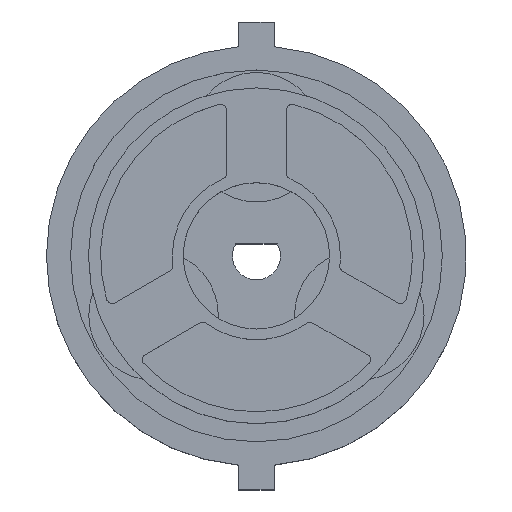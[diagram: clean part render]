
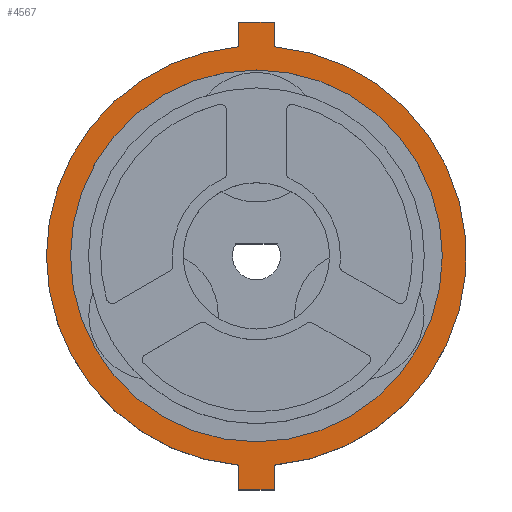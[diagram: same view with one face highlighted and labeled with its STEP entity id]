
A CAD part, top view. The second image highlights one B-rep face of the part: STEP entity #4567.
In plain terms, the highlighted planar face has unit normal (0, 0, 1).
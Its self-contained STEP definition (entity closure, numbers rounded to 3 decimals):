
#13 = ORIENTED_EDGE ( 'NONE', *, *, #3584, .T. ) ;
#15 = EDGE_CURVE ( 'NONE', #2970, #1885, #988, .T. ) ;
#82 = DIRECTION ( 'NONE',  ( 0., 0., 1. ) ) ;
#107 = DIRECTION ( 'NONE',  ( 0., -1., 0. ) ) ;
#437 = FACE_OUTER_BOUND ( 'NONE', #827, .T. ) ;
#465 = CARTESIAN_POINT ( 'NONE',  ( 1.5, -19.5, 4.5 ) ) ;
#616 = CIRCLE ( 'NONE', #6464, 17.5 ) ;
#751 = VERTEX_POINT ( 'NONE', #2878 ) ;
#776 = DIRECTION ( 'NONE',  ( 0., 0., 1. ) ) ;
#827 = EDGE_LOOP ( 'NONE', ( #4017, #13, #6195, #984, #888, #933, #6755, #1628, #4000 ) ) ;
#835 = CARTESIAN_POINT ( 'NONE',  ( -1.5, -19.5, 4.5 ) ) ;
#838 = CARTESIAN_POINT ( 'NONE',  ( 15.5, 0., 4.5 ) ) ;
#888 = ORIENTED_EDGE ( 'NONE', *, *, #3574, .T. ) ;
#910 = VECTOR ( 'NONE', #6397, 1000. ) ;
#933 = ORIENTED_EDGE ( 'NONE', *, *, #15, .T. ) ;
#984 = ORIENTED_EDGE ( 'NONE', *, *, #6751, .T. ) ;
#988 = CIRCLE ( 'NONE', #6395, 17.5 ) ;
#1152 = FACE_BOUND ( 'NONE', #8332, .T. ) ;
#1313 = AXIS2_PLACEMENT_3D ( 'NONE', #3987, #7409, #6160 ) ;
#1323 = CARTESIAN_POINT ( 'NONE',  ( -1.5, 17.436, 4.5 ) ) ;
#1335 = CARTESIAN_POINT ( 'NONE',  ( -15.5, 0., 4.5 ) ) ;
#1336 = CARTESIAN_POINT ( 'NONE',  ( 0., 0., 4.5 ) ) ;
#1449 = VERTEX_POINT ( 'NONE', #1335 ) ;
#1561 = VERTEX_POINT ( 'NONE', #4940 ) ;
#1615 = AXIS2_PLACEMENT_3D ( 'NONE', #2411, #4542, #3161 ) ;
#1628 = ORIENTED_EDGE ( 'NONE', *, *, #8051, .T. ) ;
#1673 = CARTESIAN_POINT ( 'NONE',  ( 0., 0., 4.5 ) ) ;
#1680 = AXIS2_PLACEMENT_3D ( 'NONE', #1336, #6826, #3211 ) ;
#1728 = EDGE_CURVE ( 'NONE', #4086, #1561, #2405, .T. ) ;
#1818 = CIRCLE ( 'NONE', #1680, 17.5 ) ;
#1885 = VERTEX_POINT ( 'NONE', #4579 ) ;
#2256 = DIRECTION ( 'NONE',  ( 0., 0., 1. ) ) ;
#2405 = LINE ( 'NONE', #3118, #6721 ) ;
#2411 = CARTESIAN_POINT ( 'NONE',  ( 0., 0., 4.5 ) ) ;
#2469 = VECTOR ( 'NONE', #7204, 1000. ) ;
#2593 = ORIENTED_EDGE ( 'NONE', *, *, #2639, .F. ) ;
#2639 = EDGE_CURVE ( 'NONE', #4747, #1449, #5726, .T. ) ;
#2676 = VECTOR ( 'NONE', #5297, 1000. ) ;
#2878 = CARTESIAN_POINT ( 'NONE',  ( 1.5, 17.436, 4.5 ) ) ;
#2970 = VERTEX_POINT ( 'NONE', #7225 ) ;
#3085 = VERTEX_POINT ( 'NONE', #835 ) ;
#3118 = CARTESIAN_POINT ( 'NONE',  ( -1.5, 19.5, 4.5 ) ) ;
#3161 = DIRECTION ( 'NONE',  ( 1., 0., 0. ) ) ;
#3203 = DIRECTION ( 'NONE',  ( 1., 0., 0. ) ) ;
#3211 = DIRECTION ( 'NONE',  ( 1., 0., 0. ) ) ;
#3288 = EDGE_CURVE ( 'NONE', #8518, #5837, #5330, .T. ) ;
#3341 = CARTESIAN_POINT ( 'NONE',  ( 1.5, -17.436, 4.5 ) ) ;
#3353 = VECTOR ( 'NONE', #7424, 1000. ) ;
#3461 = LINE ( 'NONE', #1323, #4497 ) ;
#3486 = CARTESIAN_POINT ( 'NONE',  ( 0., 0., 4.5 ) ) ;
#3574 = EDGE_CURVE ( 'NONE', #4543, #2970, #616, .T. ) ;
#3584 = EDGE_CURVE ( 'NONE', #751, #4086, #7111, .T. ) ;
#3701 = PLANE ( 'NONE',  #1615 ) ;
#3987 = CARTESIAN_POINT ( 'NONE',  ( 0., 0., 4.5 ) ) ;
#4000 = ORIENTED_EDGE ( 'NONE', *, *, #3288, .T. ) ;
#4017 = ORIENTED_EDGE ( 'NONE', *, *, #8108, .T. ) ;
#4086 = VERTEX_POINT ( 'NONE', #5174 ) ;
#4406 = LINE ( 'NONE', #7120, #3353 ) ;
#4497 = VECTOR ( 'NONE', #107, 1000. ) ;
#4542 = DIRECTION ( 'NONE',  ( 0., 0., 1. ) ) ;
#4543 = VERTEX_POINT ( 'NONE', #8607 ) ;
#4567 = ADVANCED_FACE ( 'NONE', ( #1152, #437 ), #3701, .T. ) ;
#4579 = CARTESIAN_POINT ( 'NONE',  ( -1.5, -17.436, 4.5 ) ) ;
#4747 = VERTEX_POINT ( 'NONE', #838 ) ;
#4940 = CARTESIAN_POINT ( 'NONE',  ( -1.5, 19.5, 4.5 ) ) ;
#5115 = DIRECTION ( 'NONE',  ( -1., 0., 0. ) ) ;
#5174 = CARTESIAN_POINT ( 'NONE',  ( 1.5, 19.5, 4.5 ) ) ;
#5281 = ORIENTED_EDGE ( 'NONE', *, *, #8426, .F. ) ;
#5297 = DIRECTION ( 'NONE',  ( 1., 0., 0. ) ) ;
#5330 = LINE ( 'NONE', #465, #2469 ) ;
#5722 = CARTESIAN_POINT ( 'NONE',  ( 1.5, 17.436, 4.5 ) ) ;
#5726 = CIRCLE ( 'NONE', #1313, 15.5 ) ;
#5837 = VERTEX_POINT ( 'NONE', #3341 ) ;
#5917 = CARTESIAN_POINT ( 'NONE',  ( 0., 0., 4.5 ) ) ;
#6160 = DIRECTION ( 'NONE',  ( 1., 0., 0. ) ) ;
#6195 = ORIENTED_EDGE ( 'NONE', *, *, #1728, .T. ) ;
#6223 = EDGE_CURVE ( 'NONE', #1885, #3085, #4406, .T. ) ;
#6266 = DIRECTION ( 'NONE',  ( 1., 0., 0. ) ) ;
#6379 = CIRCLE ( 'NONE', #6665, 15.5 ) ;
#6395 = AXIS2_PLACEMENT_3D ( 'NONE', #3486, #82, #7622 ) ;
#6397 = DIRECTION ( 'NONE',  ( 0., 1., 0. ) ) ;
#6464 = AXIS2_PLACEMENT_3D ( 'NONE', #1673, #2256, #6266 ) ;
#6642 = LINE ( 'NONE', #8162, #2676 ) ;
#6665 = AXIS2_PLACEMENT_3D ( 'NONE', #5917, #776, #3203 ) ;
#6718 = CARTESIAN_POINT ( 'NONE',  ( 1.5, -19.5, 4.5 ) ) ;
#6721 = VECTOR ( 'NONE', #5115, 1000. ) ;
#6751 = EDGE_CURVE ( 'NONE', #1561, #4543, #3461, .T. ) ;
#6755 = ORIENTED_EDGE ( 'NONE', *, *, #6223, .T. ) ;
#6826 = DIRECTION ( 'NONE',  ( 0., 0., 1. ) ) ;
#7111 = LINE ( 'NONE', #5722, #910 ) ;
#7120 = CARTESIAN_POINT ( 'NONE',  ( -1.5, -19.5, 4.5 ) ) ;
#7204 = DIRECTION ( 'NONE',  ( 0., 1., 0. ) ) ;
#7225 = CARTESIAN_POINT ( 'NONE',  ( -17.5, 0., 4.5 ) ) ;
#7409 = DIRECTION ( 'NONE',  ( 0., 0., 1. ) ) ;
#7424 = DIRECTION ( 'NONE',  ( 0., -1., 0. ) ) ;
#7622 = DIRECTION ( 'NONE',  ( 1., 0., 0. ) ) ;
#8051 = EDGE_CURVE ( 'NONE', #3085, #8518, #6642, .T. ) ;
#8108 = EDGE_CURVE ( 'NONE', #5837, #751, #1818, .T. ) ;
#8162 = CARTESIAN_POINT ( 'NONE',  ( -1.5, -19.5, 4.5 ) ) ;
#8332 = EDGE_LOOP ( 'NONE', ( #2593, #5281 ) ) ;
#8426 = EDGE_CURVE ( 'NONE', #1449, #4747, #6379, .T. ) ;
#8518 = VERTEX_POINT ( 'NONE', #6718 ) ;
#8607 = CARTESIAN_POINT ( 'NONE',  ( -1.5, 17.436, 4.5 ) ) ;
